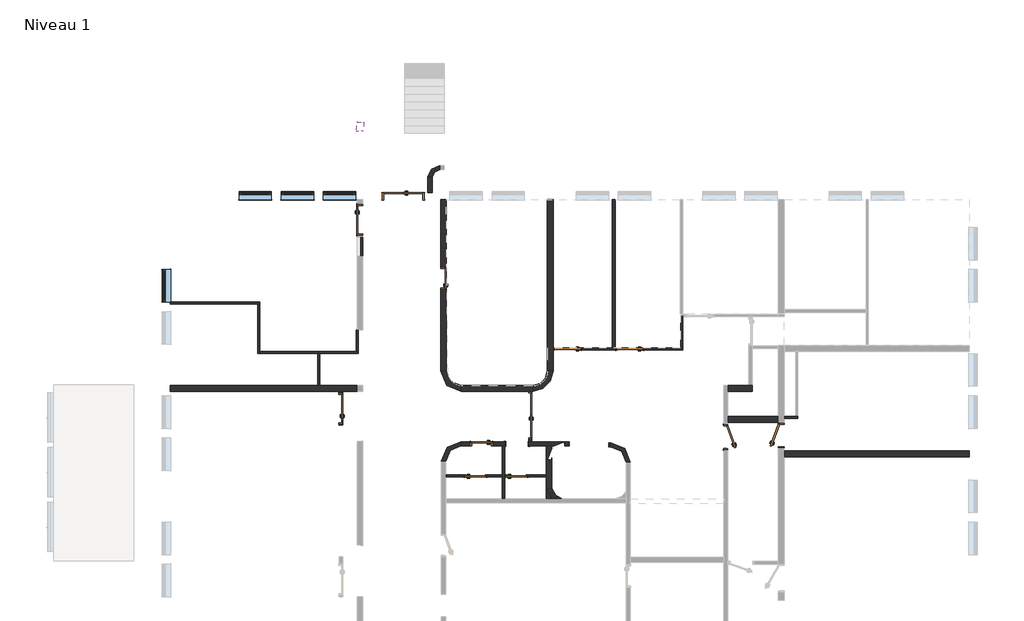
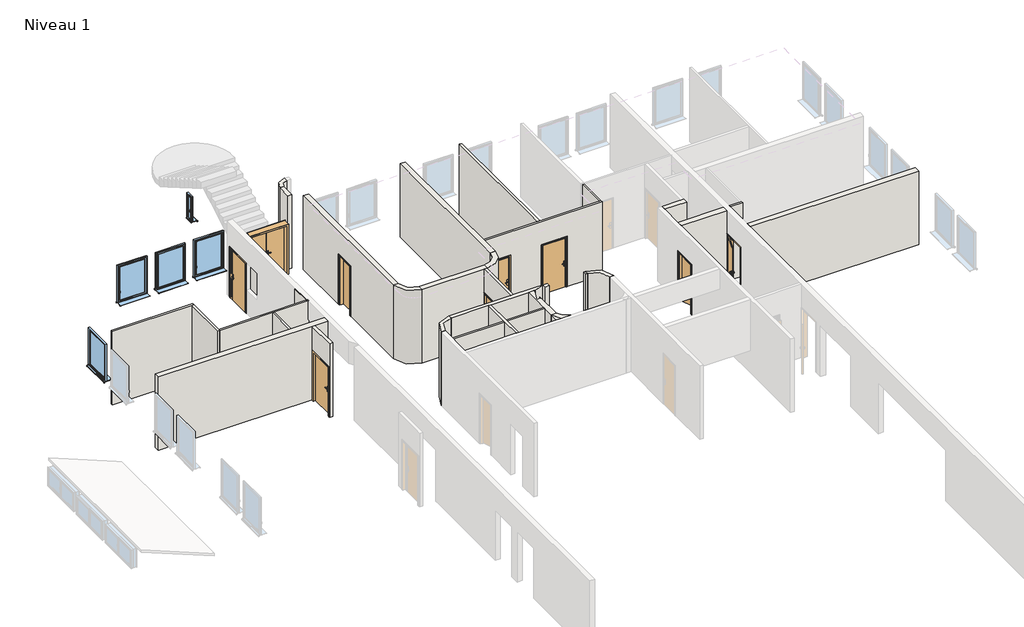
# One storey, part 4 of 5: 31 walls, 13 doors, 5 windows.
"""IFC4 building model written with IfcOpenShell, lengths in millimetres."""

from ifc_helpers import new_model, si_unit, point, frame, frame_2d, origin, place, context, project, spatial, polyline, circle_curve, trimmed, segment, composite_curve, outline, extrude, faceted_brep, transform, mapped, element, save
from ifc_brep_helpers import plane_surface, cylinder_surface, revolved_surface, advanced_brep
from components import door_1f832047, door_0234ae46, door_83361101, door_b2d4c190, door_4948b6b3, door_cb0b5031, door_1_10m_x_2_04m_0d4a83de, door_1_10m_x_2_04m_3b420d45, double_r_1_43m_x_2_04m_af7c178c, double_r_1_63m_x_2_04m_5d470661, ouverture_en_rectangle_ouverture_85x210_0c7ad7c7, window_115_x_155_cm_24c5beae, window_32_x_105_cm_1e8ab629

model = new_model("IFC4")

# Units and contexts
model_context = context("Model", 3, world=origin())
ifc_project = project(units=[si_unit("LENGTHUNIT", "METRE", prefix="MILLI")], contexts=[model_context])

# Site, building, storey
site = spatial("IfcSite", under=ifc_project)
building = spatial("IfcBuilding", under=site)
storey = spatial("IfcBuildingStorey", under=building, Name="Niveau 1", Elevation=4121.8727639)

# Doors
placement = place(None, origin())
door_shape = door_1f832047(model_context)
element("IfcDoor", 1, ObjectType="@_Int. Simple : @_PP (0.73m x 2.04m)", at=placement, inside=storey, context=model_context, shape_type="MappedRepresentation", body=[
    mapped(door_shape, transform((-14549.4094499, 1875.9456807, 4121.8727639), x_axis=(-1.0, 0.0, 0.0), y_axis=(0.0, -1.0, 0.0), z_axis=(0.0, 0.0, 1.0))),
])
door_2_shape = door_0234ae46(model_context)
element("IfcDoor", 2, ObjectType="@_Int. Simple : @_PP (0.73m x 2.04m)", at=placement, inside=storey, context=model_context, shape_type="MappedRepresentation", body=[
    mapped(door_2_shape, transform((-14695.2391723, 729.9422931, 4121.8727639), x_axis=(1.0, 0.0, 0.0), y_axis=(0.0, 1.0, 0.0), z_axis=(0.0, 0.0, 1.0))),
])
element("IfcDoor", 3, ObjectType="@_Int. Simple : @_PP (0.73m x 2.04m)", at=placement, inside=storey, context=model_context, shape_type="MappedRepresentation", body=[
    mapped(door_2_shape, transform((-13233.5464956, 729.9422931, 4121.8727639), x_axis=(1.0, 0.0, 0.0), y_axis=(0.0, 1.0, 0.0), z_axis=(0.0, 0.0, 1.0))),
])
door_3_shape = door_83361101(model_context)
element("IfcDoor", 4, ObjectType="@_Int. Simple : @_PP (0.73m x 2.04m)", at=placement, inside=storey, context=model_context, shape_type="MappedRepresentation", body=[
    mapped(door_3_shape, transform((-15865.2391709, 7805.8848594, 4121.8727639), x_axis=(1.4990706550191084e-10, 1.0, 0.0), y_axis=(-1.0, 1.4990706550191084e-10, 0.0), z_axis=(0.0, 0.0, 1.0))),
])
door_4_shape = door_b2d4c190(model_context)
element("IfcDoor", 5, ObjectType="@_Int. Simple : @_PP (0.93m x 2.04m)", at=placement, inside=storey, context=model_context, shape_type="MappedRepresentation", body=[
    mapped(door_4_shape, transform((-11486.8538189, 5248.177026, 4121.8727639), x_axis=(-1.0, 0.0, 0.0), y_axis=(0.0, -1.0, 0.0), z_axis=(0.0, 0.0, 1.0))),
])
element("IfcDoor", 6, ObjectType="@_Int. Simple : @_PP (0.93m x 2.04m)", at=placement, inside=storey, context=model_context, shape_type="MappedRepresentation", body=[
    mapped(door_4_shape, transform((-9268.9891726, 5248.177026, 4121.8727639), x_axis=(-1.0, 0.0, 0.0), y_axis=(0.0, -1.0, 0.0), z_axis=(0.0, 0.0, 1.0))),
])
door_5_shape = door_4948b6b3(model_context)
element("IfcDoor", 7, ObjectType="@_Int. Simple : @_PP (0.83m x 2.04m)", at=placement, inside=storey, context=model_context, shape_type="MappedRepresentation", body=[
    mapped(door_5_shape, transform((-3843.989174, 2209.6432161, 4121.8727639), x_axis=(0.0, 1.0, 0.0), y_axis=(-1.0, 0.0, 0.0), z_axis=(0.0, 0.0, 1.0))),
])
door_6_shape = door_cb0b5031(model_context)
element("IfcDoor", 8, ObjectType="@_Int. Simple : @_PP (0.83m x 2.04m)", at=placement, inside=storey, context=model_context, shape_type="MappedRepresentation", body=[
    mapped(door_6_shape, transform((-5822.6697023, 2149.6432161, 4121.8727639), x_axis=(0.0, 1.0, 0.0), y_axis=(-1.0, 0.0, 0.0), z_axis=(0.0, 0.0, 1.0))),
])
door_1_10m_x_2_04m_shape = door_1_10m_x_2_04m_0d4a83de(model_context)
element("IfcDoor", 9, ObjectType="Tierce  160 : 1.10m x 2.04m", at=placement, inside=storey, context=model_context, shape_type="MappedRepresentation", body=[
    mapped(door_1_10m_x_2_04m_shape, transform((-19518.1879319, 3132.2061206, 4121.8727639), x_axis=(-3.8772042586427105e-11, -1.0, 0.0), y_axis=(1.0, -3.8772042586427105e-11, 0.0), z_axis=(0.0, 0.0, 1.0))),
])
door_1_10m_x_2_04m_2_shape = door_1_10m_x_2_04m_3b420d45(model_context)
element("IfcDoor", 10, ObjectType="Tierce  160 : 1.10m x 2.04m", at=placement, inside=storey, context=model_context, shape_type="MappedRepresentation", body=[
    mapped(door_1_10m_x_2_04m_2_shape, transform((-18843.9891692, 9855.8848592, 4121.8727639), x_axis=(7.361836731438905e-11, 1.0, 0.0), y_axis=(-1.0, 7.361836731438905e-11, 0.0), z_axis=(0.0, 0.0, 1.0))),
])
double_r_1_43m_x_2_04m_shape = double_r_1_43m_x_2_04m_af7c178c(model_context)
element("IfcDoor", 11, ObjectType="Double (R) : 1.43m x 2.04m", at=placement, inside=storey, context=model_context, shape_type="MappedRepresentation", body=[
    mapped(double_r_1_43m_x_2_04m_shape, transform((-17299.4462097, 10695.8848592, 4121.8727639), x_axis=(1.0, 0.0, 0.0), y_axis=(0.0, 1.0, 0.0), z_axis=(0.0, 0.0, 1.0))),
])
double_r_1_63m_x_2_04m_shape = double_r_1_63m_x_2_04m_5d470661(model_context)
element("IfcDoor", 12, ObjectType="Double (R) : 1.63m x 2.04m", at=placement, inside=storey, context=model_context, shape_type="MappedRepresentation", body=[
    mapped(double_r_1_63m_x_2_04m_shape, transform((-12774.461565, 2887.2122401, 4121.8727639), x_axis=(0.0, -1.0, 0.0), y_axis=(1.0, 0.0, 0.0), z_axis=(0.0, 0.0, 1.0))),
])
ouverture_en_rectangle_ouverture_85x210_shape = ouverture_en_rectangle_ouverture_85x210_0c7ad7c7(model_context)
element("IfcDoor", 13, ObjectType="Ouverture en rectangle : Ouverture 85x210", at=placement, inside=storey, context=model_context, shape_type="MappedRepresentation", body=[
    mapped(ouverture_en_rectangle_ouverture_85x210_shape, transform((-13253.5797272, 1875.9456807, 4121.8727639), x_axis=(1.0, 0.0, 0.0), y_axis=(0.0, 1.0, 0.0), z_axis=(0.0, 0.0, 1.0))),
])

# Walls
element("IfcWall", 14, ObjectType="@_Générique - Int. 200 mm", at=placement, inside=storey, context=model_context, shape_type="Brep", body=[
    faceted_brep([(-15240.2391716, 3750.8848625, 4121.8727639), (-12824.461565, 3750.8848626, 4121.8727639), (-12724.461565, 3750.8848626, 4121.8727639), (-12691.8538184, 3750.8848626, 4121.8727639), (-12691.8538184, 3750.8848626, 7167.3082742), (-12724.461565, 3750.8848626, 7167.3082742), (-12824.461565, 3750.8848626, 7167.3082742), (-15240.2391716, 3750.8848625, 7167.3082742), (-15240.2391716, 3950.8848625, 4121.8727639), (-15240.2391716, 3950.8848625, 7167.3082742), (-12691.8538184, 3950.8848626, 7167.3082742), (-12691.8538184, 3950.8848626, 4121.8727639)], [[[0, 1, 2, 3, 4, 5, 6, 7]], [[8, 9, 10, 11]], [[3, 2, 1, 0, 8, 11]], [[4, 3, 11, 10]], [[0, 7, 9, 8]], [[7, 6, 5, 4, 10, 9]]]),
])
element("IfcWall", 15, ObjectType="@_Générique - Int. 200 mm", at=placement, inside=storey, context=model_context, shape_type="SweptSolid", body=[
    extrude(outline(polyline([(-11966.8538189, 10570.8848592), (-11966.8538189, 4475.8848626), (-12166.8538189, 4475.8848626), (-12166.8538189, 10570.8848592), (-11966.8538189, 10570.8848592)])), frame((0.0, 0.0, 4121.8727639), z_axis=(0.0, 0.0, 1.0), x_axis=(1.0, 0.0, 0.0)), (0.0, 0.0, 1.0), 3045.4355104),
])
element("IfcWall", 16, ObjectType="@_Générique - Int. 200 mm", at=placement, inside=storey, context=model_context, shape_type="Brep", body=[
    faceted_brep([(-15965.2391714, 4475.8645517, 4121.8727639), (-15965.2391714, 4475.8645517, 7167.3082742), (-15965.2391705, 10570.8848592, 7167.3082742), (-15965.2391705, 10570.8848592, 4121.8727639), (-15965.2391709, 8170.8848594, 4121.8727639), (-15965.2391709, 8170.8848594, 6196.8727639), (-15965.239171, 7370.8848594, 6196.8727639), (-15965.239171, 7370.8848594, 4121.8727639), (-15765.2391714, 4475.8645517, 7167.3082742), (-15765.2391714, 4475.8645517, 4121.8727639), (-15765.239171, 7370.8848594, 4121.8727639), (-15765.239171, 7370.8848594, 6196.8727639), (-15765.2391709, 8170.8848594, 6196.8727639), (-15765.2391709, 8170.8848594, 4121.8727639), (-15765.2391705, 10570.8848592, 4121.8727639), (-15765.2391705, 10570.8848592, 7167.3082742), (-15835.8209314, 4475.8645517, 7167.3082742), (-15835.8209314, 10570.8848592, 7167.3082742)], [[[0, 1, 2, 3, 4, 5, 6, 7]], [[8, 9, 10, 11, 12, 13, 14, 15]], [[9, 0, 7, 10]], [[3, 14, 13, 4]], [[1, 0, 9, 8, 16]], [[3, 2, 17, 15, 14]], [[2, 1, 16, 8, 15, 17]], [[12, 5, 4, 13]], [[5, 12, 11, 6]], [[6, 11, 10, 7]]]),
])
element("IfcWall", 17, ObjectType="@_Générique - Int. 200 mm", at=placement, inside=storey, context=model_context, shape_type="SweptSolid", body=[
    extrude(outline(composite_curve([segment(polyline([(-12166.8538184, 4475.8848627), (-11966.8538184, 4475.8848627)]), True, "CONTINUOUS"), segment(trimmed(circle_curve(frame_2d((-12691.8538184, 4475.8848626)), 725.0), [point((-11966.8538184, 4475.8848627))], [point((-12691.8538184, 3750.8848626))], False, "CARTESIAN"), True, "CONTINUOUS"), segment(polyline([(-12691.8538184, 3750.8848626), (-12691.8538184, 3950.8848626)]), True, "CONTINUOUS"), segment(trimmed(circle_curve(frame_2d((-12691.8538184, 4475.8848626)), 525.0), [point((-12691.8538184, 3950.8848626))], [point((-12166.8538184, 4475.8848627))], True, "CARTESIAN"), True, "CONTINUOUS")], self_intersect=False)), frame((0.0, 0.0, 4121.8727639), z_axis=(0.0, 0.0, 1.0), x_axis=(1.0, 0.0, 0.0)), (0.0, 0.0, 1.0), 3045.4355104),
])
element("IfcWall", 18, ObjectType="@_Générique - Int. 200 mm", at=placement, inside=storey, context=model_context, shape_type="SweptSolid", body=[
    extrude(outline(composite_curve([segment(polyline([(-15240.2391716, 3950.8848625), (-15240.2391716, 3750.8848625)]), True, "CONTINUOUS"), segment(trimmed(circle_curve(frame_2d((-15240.2391717, 4475.8848626)), 725.0000001), [point((-15240.2391716, 3750.8848625))], [point((-15965.2391718, 4475.8848625))], False, "CARTESIAN"), True, "CONTINUOUS"), segment(polyline([(-15965.2391718, 4475.8848625), (-15765.2391718, 4475.8848625)]), True, "CONTINUOUS"), segment(trimmed(circle_curve(frame_2d((-15240.2391717, 4475.8848626)), 525.0000001), [point((-15765.2391718, 4475.8848625))], [point((-15240.2391716, 3950.8848625))], True, "CARTESIAN"), True, "CONTINUOUS")], self_intersect=False)), frame((0.0, 0.0, 4121.8727639), z_axis=(0.0, 0.0, 1.0), x_axis=(1.0, 0.0, 0.0)), (0.0, 0.0, 1.0), 3045.4355104),
])
element("IfcWall", 19, ObjectType="@_Générique - Int. 200 mm", at=placement, inside=storey, context=model_context, shape_type="AdvancedBrep", body=[
    advanced_brep(
    [(-12206.8538189, -84.1151398, 4121.8727639), (-12206.8538189, -84.1151398, 7167.3082742), (-12206.8538189, 257.3668633, 7167.3082742), (-12206.8538189, 1800.9456807, 7167.3082742), (-12206.8538189, 1800.9456807, 4121.8727639), (-12206.8538189, 257.3668633, 4121.8727639), (-12006.8538189, 282.2156051, 7167.3082742), (-12006.8538189, 282.2156051, 4121.8727639), (-12006.8538189, 1380.0876854, 4121.8727639), (-12006.8538189, 1380.0876854, 7167.3082742), (-12006.8538189, 1800.9456807, 4121.8727639), (-12006.8538189, 1800.9456807, 7167.3082742), (-12006.8538189, 1713.8116693, 7167.3082742), (-12006.8538189, 1713.8116693, 4121.8727639), (-12019.2196923, -84.1151399, 4121.8727639), (-12166.8035865, 1302.8378704, 4121.8727639), (-12016.9291675, 1296.7012154, 4121.8727639), (-12019.2196923, -84.1151399, 7167.3082742), (-12016.9291675, 1296.7012154, 7167.3082742), (-12166.8035865, 1302.8378704, 7167.3082742)],
    [
        (0, 1),
        (1, 2),
        (2, 3),
        (3, 4),
        (4, 5),
        (5, 0),
        (6, 7),
        (7, 8),
        (8, 9),
        (9, 6),
        (10, 11),
        (11, 12),
        (12, 13),
        (13, 10),
        (14, 0),
        (5, 14, circle_curve(frame((-11505.2506143, 420.586131, 4121.8727639), z_axis=(0.0, 0.0, 1.0), x_axis=(-0.9999845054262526, 0.005566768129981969, 0.0)), 720.3385218)),
        (7, 5),
        (4, 10),
        (13, 15, circle_curve(frame((-11487.3728871, 1275.0183678, 4121.8727639), z_axis=(0.0, 0.0, 1.0), x_axis=(-0.9999845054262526, -0.005566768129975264, 0.0)), 680.0)),
        (15, 16),
        (16, 8, circle_curve(frame((-11487.3728871, 1275.0183678, 4121.8727639), z_axis=(0.0, 0.0, -1.0), x_axis=(-0.9999845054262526, -0.005566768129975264, 0.0)), 530.0)),
        (14, 17),
        (17, 1),
        (17, 2, circle_curve(frame((-11505.2506143, 420.586131, 7167.3082742), z_axis=(0.0, 0.0, -1.0), x_axis=(-0.9999845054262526, 0.005566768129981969, 0.0)), 720.3385218)),
        (2, 6),
        (9, 18, circle_curve(frame((-11487.3728871, 1275.0183678, 7167.3082742), z_axis=(0.0, 0.0, 1.0), x_axis=(-0.9999845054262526, -0.005566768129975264, 0.0)), 530.0)),
        (18, 19),
        (19, 12, circle_curve(frame((-11487.3728871, 1275.0183678, 7167.3082742), z_axis=(0.0, 0.0, -1.0), x_axis=(-0.9999845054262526, -0.005566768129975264, 0.0)), 680.0)),
        (11, 3),
        (5, 2),
        (19, 15),
        (18, 16),
    ],
    [
        plane_surface(frame((-12206.8538189, 1455.8848602, 4121.8727639), z_axis=(-1.0, 0.0, 0.0), x_axis=(0.0, -1.0, 0.0))),
        plane_surface(frame((-12006.8538189, 1455.8848602, 4121.8727639), z_axis=(1.0, 0.0, 0.0), x_axis=(0.0, 1.0, 0.0))),
        plane_surface(frame((-12206.8538189, 1875.9456807, 4121.8727639), z_axis=(0.0, 0.0, -1.0), x_axis=(1.0, 0.0, 0.0))),
        plane_surface(frame((-9831.385531, -84.1151401, 4121.8727639), z_axis=(-1.1123460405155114e-10, -1.0, 0.0), x_axis=(-1.0, 1.1123460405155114e-10, 0.0))),
        plane_surface(frame((-25618.9891748, 10570.8848592, 7167.3082742), z_axis=(0.0, 0.0, 1.0), x_axis=(0.0, 1.0, 0.0))),
        revolved_surface(polyline([(-12225.57797476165, 424.5960885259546, 7167.3082742), (-12225.57797476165, 424.5960885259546, 4121.8727639)]), (-11505.2506143, 420.586131, 4121.8727639), (0.0, 0.0, 1.0)),
        plane_surface(frame((-12006.8538189, 282.2156051, 4121.8727639), z_axis=(0.12329572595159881, -0.9923699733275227, 0.0), x_axis=(-0.9923699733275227, -0.12329572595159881, 0.0))),
        plane_surface(frame((-12035.9365049, 1800.9456807, 4121.8727639), z_axis=(0.0, 1.0, 0.0), x_axis=(1.0, 0.0, 0.0))),
        revolved_surface(polyline([(-12167.362350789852, 1271.2329654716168, 7167.3082742), (-12167.362350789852, 1271.2329654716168, 4121.8727639)]), (-11487.3728871, 1275.0183678, 4121.8727639), (0.0, 0.0, 1.0)),
        plane_surface(frame((-12166.8035865, 1302.8378704, 7167.3082742), z_axis=(0.040911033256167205, 0.9991627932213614, 0.0), x_axis=(0.0, 0.0, -1.0))),
        cylinder_surface(frame((-11487.3728871, 1275.0183678, 4121.8727639), z_axis=(0.0, 0.0, -1.0), x_axis=(-0.9999845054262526, -0.005566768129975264, 0.0)), 530.0),
    ],
    [
        (0, [[1, 2, 3, 4, 5, 6]]),
        (1, [[7, 8, 9, 10]]),
        (1, [[11, 12, 13, 14]]),
        (2, [[15, -6, 16]]),
        (2, [[17, -5, 18, -14, 19, 20, 21, -8]]),
        (3, [[-1, -15, 22, 23]]),
        (4, [[-23, 24, -2]]),
        (4, [[25, -10, 26, 27, 28, -12, 29, -3]]),
        (5, [[30, -24, -22, -16]]),
        (6, [[-30, -17, -7, -25]]),
        (7, [[-4, -29, -11, -18]]),
        (8, [[31, -19, -13, -28]]),
        (9, [[-31, -27, 32, -20]]),
        (10, [[-32, -26, -9, -21]]),
    ],
),
])
element("IfcWall", 20, ObjectType="@_Générique - Int. 200 mm", at=placement, inside=storey, context=model_context, shape_type="Brep", body=[
    faceted_brep([(-4882.6180434, 3950.8848626, 4121.8727639), (-5002.6180434, 3950.8848626, 4121.8727639), (-5747.6697023, 3950.8848626, 4121.8727639), (-5747.6697023, 3950.8848626, 7167.3082742), (-5002.6180434, 3950.8848626, 7167.3082742), (-4882.6180434, 3950.8848626, 7167.3082742), (-4882.6180434, 3750.8848626, 4121.8727639), (-4882.6180434, 3750.8848626, 7167.3082742), (-5747.6697023, 3750.8848626, 7167.3082742), (-5747.6697023, 3750.8848626, 4121.8727639)], [[[0, 1, 2, 3, 4, 5]], [[6, 7, 8, 9]], [[2, 1, 0, 6, 9]], [[5, 4, 3, 8, 7]], [[0, 5, 7, 6]], [[3, 2, 9, 8]]]),
])
element("IfcWall", 21, ObjectType="@_Générique - Int. 100 mm", at=placement, inside=storey, context=model_context, shape_type="Brep", body=[
    faceted_brep([(-13778.5797272, 1800.9456807, 4121.8727639), (-13778.5797272, 764.9422931, 4121.8727639), (-13778.5797272, 694.9422931, 4121.8727639), (-13778.5797272, -84.1151397, 4121.8727639), (-13778.5797272, -84.1151397, 7167.3082742), (-13778.5797272, 694.9422931, 7167.3082742), (-13778.5797272, 764.9422931, 7167.3082742), (-13778.5797272, 1800.9456807, 7167.3082742), (-13678.5797272, 1800.9456807, 4121.8727639), (-13678.5797272, 1800.9456807, 6221.8727639), (-13678.5797272, 1800.9456807, 7167.3082742), (-13678.5797272, 764.9422931, 7167.3082742), (-13678.5797272, 694.9422931, 7167.3082742), (-13678.5797272, -84.1151397, 7167.3082742), (-13678.5797272, -84.1151397, 4121.8727639), (-13678.5797272, 694.9422931, 4121.8727639), (-13678.5797272, 764.9422931, 4121.8727639)], [[[0, 1, 2, 3, 4, 5, 6, 7]], [[8, 9, 10, 11, 12, 13, 14, 15, 16]], [[3, 2, 1, 0, 8, 16, 15, 14]], [[7, 6, 5, 4, 13, 12, 11, 10]], [[4, 3, 14, 13]], [[0, 7, 10, 9, 8]]]),
])
element("IfcWall", 22, ObjectType="@_Générique - Int. 70 mm", at=placement, inside=storey, context=model_context, shape_type="SweptSolid", body=[
    extrude(outline(polyline([(7167.3082742, -15793.9891666), (4121.8727639, -15793.9891666), (4121.8727639, -15130.2391723), (6196.8727639, -15130.2391723), (6196.8727639, -14330.2391723), (4121.8727639, -14330.2391723), (4121.8727639, -13778.5797272), (7167.3082742, -13778.5797272), (7167.3082742, -15793.9891666)])), frame((0.0, 694.9422931, 0.0), z_axis=(0.0, 1.0, 0.0), x_axis=(0.0, 0.0, 1.0)), (0.0, 0.0, 1.0), 70.0),
    extrude(outline(polyline([(4121.8727639, -12206.8538189), (7167.3082742, -12206.8538189), (7167.3082742, -13678.5797272), (4121.8727639, -13678.5797272), (4121.8727639, -13668.5464956), (6196.8727639, -13668.5464956), (6196.8727639, -12868.5464956), (4121.8727639, -12868.5464956), (4121.8727639, -12206.8538189)])), frame((0.0, 694.9422931, 0.0), z_axis=(0.0, 1.0, 0.0), x_axis=(0.0, 0.0, 1.0)), (0.0, 0.0, 1.0), 70.0),
])
element("IfcWall", 23, ObjectType="@_Générique - Int. 100 mm", at=placement, inside=storey, context=model_context, shape_type="SweptSolid", body=[
    extrude(outline(polyline([(-9853.9891726, 5283.177026), (-9853.9891726, 10570.8848592), (-9753.9891726, 10570.8848592), (-9753.9891726, 5283.177026), (-9853.9891726, 5283.177026)])), frame((0.0, 0.0, 4121.8727639), z_axis=(0.0, 0.0, 1.0), x_axis=(1.0, 0.0, 0.0)), (0.0, 0.0, 1.0), 3045.4355104),
])
element("IfcWall", 24, ObjectType="@_Générique - Int. 70 mm", at=placement, inside=storey, context=model_context, shape_type="Brep", body=[
    faceted_brep([(-3257.6180434, 2849.6432161, 4121.8727639), (-3327.6180434, 2849.6432161, 4121.8727639), (-3743.989174, 2849.6432161, 4121.8727639), (-3743.989174, 2849.6432161, 7167.3082742), (-3327.6180434, 2849.6432161, 7167.3082742), (-3257.6180434, 2849.6432161, 7167.3082742), (-3257.6180434, 2779.6432161, 4121.8727639), (-3257.6180434, 2779.6432161, 7167.3082742), (-3743.989174, 2779.6432161, 7167.3082742), (-3743.989174, 2779.6432161, 4121.8727639)], [[[0, 1, 2, 3, 4, 5]], [[6, 7, 8, 9]], [[2, 1, 0, 6, 9]], [[5, 4, 3, 8, 7]], [[3, 2, 9, 8]], [[0, 5, 7, 6]]]),
])
element("IfcWall", 25, ObjectType="@_Générique - Int. 120 mm", at=placement, inside=storey, context=model_context, shape_type="AdvancedBrep", body=[
    advanced_brep(
    [(-19458.1879319, 3740.8848613, 7167.3082742), (-19458.187932, 2545.5285678, 7167.3082742), (-19458.187932, 2545.5285678, 4121.8727639), (-19458.1879319, 2572.2061206, 4121.8727639), (-19458.1879319, 2572.2061206, 6196.8727639), (-19458.1879319, 3692.2061206, 6196.8727639), (-19458.1879319, 3692.2061206, 4121.8727639), (-19458.1879319, 3740.8848613, 4121.8727639), (-19578.187932, 2537.2164827, 7167.3082742), (-19578.1879319, 3740.8848613, 7167.3082742), (-19578.1879319, 3740.8848613, 4121.8727639), (-19578.1879319, 3692.2061206, 4121.8727639), (-19578.1879319, 3692.2061206, 6196.8727639), (-19578.1879319, 2572.2061206, 6196.8727639), (-19578.1879319, 2572.2061206, 4121.8727639), (-19578.187932, 2537.2164827, 4121.8727639)],
    [
        (0, 1),
        (1, 2),
        (2, 3),
        (3, 4),
        (4, 5),
        (5, 6),
        (6, 7),
        (7, 0),
        (8, 9),
        (9, 10),
        (10, 11),
        (11, 12),
        (12, 13),
        (13, 14),
        (14, 15),
        (15, 8),
        (2, 15, circle_curve(frame((-19466.7134088, 1798.244569, 4121.8727639), z_axis=(0.0, 0.0, 1.0), x_axis=(0.0, -1.0, 0.0)), 747.3326292)),
        (14, 3),
        (10, 7),
        (6, 11),
        (0, 9),
        (8, 1, circle_curve(frame((-19466.7134088, 1798.244569, 7167.3082742), z_axis=(0.0, 0.0, -1.0), x_axis=(0.0, -1.0, 0.0)), 747.3326292)),
        (4, 13),
        (12, 5),
    ],
    [
        plane_surface(frame((-19458.1879319, 3367.0338422, 4121.8727639), z_axis=(1.0, -3.8772042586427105e-11, 0.0), x_axis=(3.8772042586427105e-11, 1.0, 0.0))),
        plane_surface(frame((-19578.1879319, 3367.0338423, 4121.8727639), z_axis=(-1.0, 3.8772042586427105e-11, 0.0), x_axis=(-3.8772042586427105e-11, -1.0, 0.0))),
        plane_surface(frame((-19458.187932, 2443.52738, 4121.8727639), z_axis=(0.0, 0.0, -1.0), x_axis=(-1.0, 3.8771155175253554e-11, 0.0))),
        plane_surface(frame((-25618.9891748, 10570.8848592, 7167.3082742), z_axis=(0.0, 0.0, 1.0), x_axis=(0.0, 1.0, 0.0))),
        plane_surface(frame((-19158.9891725, 3740.8848613, 4121.8727639), z_axis=(3.876859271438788e-11, 1.0, 0.0), x_axis=(1.0, -3.876859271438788e-11, 0.0))),
        revolved_surface(polyline([(-19466.7134088, 1050.9119397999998, 7167.3082742), (-19466.7134088, 1050.9119397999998, 4121.8727639)]), (-19466.7134088, 1798.244569, 4121.8727639), (0.0, 0.0, 1.0)),
        plane_surface(frame((-20982.1879319, 2572.2061207, 6196.8727639), z_axis=(0.0, 0.0, -1.0), x_axis=(1.0, -3.877200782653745e-11, 0.0))),
        plane_surface(frame((-20982.1879319, 3692.2061207, 6196.8727639), z_axis=(-3.877200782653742e-11, -1.0, 0.0), x_axis=(1.0, -3.877200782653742e-11, 0.0))),
        plane_surface(frame((-20982.1879319, 2572.2061207, 4121.8727639), z_axis=(3.877200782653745e-11, 1.0, 0.0), x_axis=(1.0, -3.877200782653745e-11, 0.0))),
    ],
    [
        (0, [[1, 2, 3, 4, 5, 6, 7, 8]]),
        (1, [[9, 10, 11, 12, 13, 14, 15, 16]]),
        (2, [[17, -15, 18, -3]]),
        (2, [[19, -7, 20, -11]]),
        (3, [[-1, 21, -9, 22]]),
        (4, [[-8, -19, -10, -21]]),
        (5, [[-17, -2, -22, -16]]),
        (6, [[23, -13, 24, -5]]),
        (7, [[-24, -12, -20, -6]]),
        (8, [[-23, -4, -18, -14]]),
    ],
),
])
element("IfcWall", 26, ObjectType="@_Générique - Int. 100 mm", at=placement, inside=storey, context=model_context, shape_type="SweptSolid", body=[
    extrude(outline(polyline([(1950.9456807, 7167.3082742), (3750.8848626, 7167.3082742), (3750.8848626, 4121.8727639), (3737.2122401, 4121.8727639), (3737.2122401, 6196.8727639), (2037.2122401, 6196.8727639), (2037.2122401, 4121.8727639), (1950.9456807, 4121.8727639), (1950.9456807, 7167.3082742)])), frame((-12824.461565, 0.0, 0.0), z_axis=(1.0, 0.0, 0.0), x_axis=(0.0, 1.0, 0.0)), (0.0, 0.0, 1.0), 100.0),
])
element("IfcWall", 27, ObjectType="@_Générique - Int. 150 mm", at=placement, inside=storey, context=model_context, shape_type="SweptSolid", body=[
    extrude(outline(polyline([(-16424.5970292, 10820.8848592), (-16424.5970292, 11389.1236148), (-16274.5970292, 11381.3483403), (-16274.5970292, 10820.8848592), (-16424.5970292, 10820.8848592)])), frame((0.0, 0.0, 4121.8727639), z_axis=(0.0, 0.0, 1.0), x_axis=(1.0, 0.0, 0.0)), (0.0, 0.0, 1.0), 3045.4355104),
])
element("IfcWall", 28, ObjectType="@_Générique - Int. 150 mm", at=placement, inside=storey, context=model_context, shape_type="SweptSolid", body=[
    extrude(outline(composite_curve([segment(polyline([(-16274.5970292, 11381.3483403), (-16424.5970292, 11389.1236148)]), True, "CONTINUOUS"), segment(trimmed(circle_curve(frame_2d((-15982.7522615, 11347.504237)), 443.8005987), [point((-16424.5970292, 11389.1236148))], [point((-16002.054988, 11790.8848592))], False, "CARTESIAN"), True, "CONTINUOUS"), segment(polyline([(-16002.054988, 11790.8848592), (-15998.4558377, 11640.8848592)]), True, "CONTINUOUS"), segment(trimmed(circle_curve(frame_2d((-15982.7522615, 11347.504237)), 293.8005987), [point((-15998.4558377, 11640.8848592))], [point((-16274.5970292, 11381.3483403))], True, "CARTESIAN"), True, "CONTINUOUS")], self_intersect=False)), frame((0.0, 0.0, 4121.8727639), z_axis=(0.0, 0.0, 1.0), x_axis=(1.0, 0.0, 0.0)), (0.0, 0.0, 1.0), 3045.4355104),
])
element("IfcWall", 29, ObjectType="Ext. Voile BA 150", at=placement, inside=storey, context=model_context, shape_type="AdvancedBrep", body=[
    advanced_brep(
    [(-15243.9891668, 1950.9456807, 4121.8727639), (-15243.9891668, 1950.9456807, 7167.3082742), (-12824.461565, 1950.9456807, 7167.3082742), (-12724.461565, 1950.9456807, 7167.3082742), (-11394.0197746, 1950.9456807, 7167.3082742), (-11394.0197746, 1950.9456807, 4121.8727639), (-12724.461565, 1950.9456807, 4121.8727639), (-12824.461565, 1950.9456807, 4121.8727639), (-12828.5797272, 1950.9456807, 4121.8727639), (-12828.5797272, 1950.9456807, 6221.8727639), (-13678.5797272, 1950.9456807, 6221.8727639), (-13678.5797272, 1950.9456807, 4121.8727639), (-14114.4094499, 1950.9456807, 4121.8727639), (-14114.4094499, 1950.9456807, 6196.8727639), (-14914.4094499, 1950.9456807, 6196.8727639), (-14914.4094499, 1950.9456807, 4121.8727639), (-11394.0197746, 1800.9456807, 4121.8727639), (-11394.0197746, 1800.9456807, 7167.3082742), (-11552.9507915, 1800.9456807, 7167.3082742), (-11552.9507915, 1800.9456807, 4121.8727639), (-15243.9891668, 1800.9456807, 7167.3082742), (-15243.9891668, 1800.9456807, 4121.8727639), (-14914.4094499, 1800.9456807, 4121.8727639), (-14914.4094499, 1800.9456807, 6196.8727639), (-14114.4094499, 1800.9456807, 6196.8727639), (-14114.4094499, 1800.9456807, 4121.8727639), (-13778.5797272, 1800.9456807, 4121.8727639), (-13678.5797272, 1800.9456807, 4121.8727639), (-13678.5797272, 1800.9456807, 6221.8727639), (-12828.5797272, 1800.9456807, 6221.8727639), (-12828.5797272, 1800.9456807, 4121.8727639), (-12206.8538189, 1800.9456807, 4121.8727639), (-12006.8538189, 1800.9456807, 4121.8727639), (-11918.4186637, 1800.9456807, 4121.8727639), (-11918.4186637, 1800.9456807, 7167.3082742), (-12006.8538189, 1800.9456807, 7167.3082742), (-12206.8538189, 1800.9456807, 7167.3082742), (-13678.5797272, 1800.9456807, 7167.3082742), (-13778.5797272, 1800.9456807, 7167.3082742), (-11548.3436018, 1801.4996798, 4121.8727639), (-11565.5994644, 1950.5038248, 4121.8727639), (-11565.5994644, 1950.5038248, 7167.3082742), (-11548.3436018, 1801.4996798, 7167.3082742)],
    [
        (0, 1),
        (1, 2),
        (2, 3),
        (3, 4),
        (4, 5),
        (5, 6),
        (6, 7),
        (7, 8),
        (8, 9),
        (9, 10),
        (10, 11),
        (11, 12),
        (12, 13),
        (13, 14),
        (14, 15),
        (15, 0),
        (16, 17),
        (17, 18),
        (18, 19),
        (19, 16),
        (20, 21),
        (21, 22),
        (22, 23),
        (23, 24),
        (24, 25),
        (25, 26),
        (26, 27),
        (27, 28),
        (28, 29),
        (29, 30),
        (30, 31),
        (31, 32),
        (32, 33),
        (33, 34),
        (34, 35),
        (35, 36),
        (36, 37),
        (37, 38),
        (38, 20),
        (5, 16),
        (19, 39, circle_curve(frame((-11487.3728871, 1275.0183678, 4121.8727639), z_axis=(0.0, 0.0, -1.0), x_axis=(-0.9999845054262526, -0.005566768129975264, 0.0)), 530.0)),
        (39, 40),
        (40, 33, circle_curve(frame((-11487.3728871, 1275.0183678, 4121.8727639), z_axis=(0.0, 0.0, 1.0), x_axis=(-0.9999845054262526, -0.005566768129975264, 0.0)), 680.0)),
        (30, 8),
        (21, 0),
        (15, 22),
        (11, 27),
        (25, 12),
        (20, 1),
        (4, 17),
        (34, 41, circle_curve(frame((-11487.3728871, 1275.0183678, 7167.3082742), z_axis=(0.0, 0.0, -1.0), x_axis=(-0.9999845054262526, -0.005566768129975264, 0.0)), 680.0)),
        (41, 42),
        (42, 18, circle_curve(frame((-11487.3728871, 1275.0183678, 7167.3082742), z_axis=(0.0, 0.0, 1.0), x_axis=(-0.9999845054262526, -0.005566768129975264, 0.0)), 530.0)),
        (40, 41),
        (39, 42),
        (29, 9),
        (10, 28),
        (14, 23),
        (13, 24),
    ],
    [
        plane_surface(frame((-12035.9365049, 1950.9456807, 4121.8727639), z_axis=(0.0, 1.0, 0.0), x_axis=(-1.0, 0.0, 0.0))),
        plane_surface(frame((-12035.9365049, 1800.9456807, 4121.8727639), z_axis=(0.0, -1.0, 0.0), x_axis=(1.0, 0.0, 0.0))),
        plane_surface(frame((-11394.0197746, 1950.9456807, 4121.8727639), z_axis=(0.0, 0.0, -1.0), x_axis=(0.0, -1.0, 0.0))),
        plane_surface(frame((-15243.9891668, 1950.9456807, 4121.8727639), z_axis=(-1.0, 0.0, 0.0), x_axis=(0.0, -1.0, 0.0))),
        plane_surface(frame((-11394.0197746, 1950.9456807, 7167.3082742), z_axis=(1.0, 0.0, 0.0), x_axis=(0.0, -1.0, 0.0))),
        plane_surface(frame((-25618.9891748, 10570.8848592, 7167.3082742), z_axis=(0.0, 0.0, 1.0), x_axis=(0.0, 1.0, 0.0))),
        revolved_surface(polyline([(-12167.362350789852, 1271.2329654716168, 7167.3082742), (-12167.362350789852, 1271.2329654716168, 4121.8727639)]), (-11487.3728871, 1275.0183678, 4121.8727639), (0.0, 0.0, 1.0)),
        plane_surface(frame((-11548.3436018, 1801.4996798, 7167.3082742), z_axis=(-0.9933609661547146, -0.11503908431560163, 0.0), x_axis=(0.0, 0.0, -1.0))),
        plane_surface(frame((-12828.5797272, 276.9456807, 4121.8727639), z_axis=(-1.0, 0.0, 0.0), x_axis=(0.0, 1.0, 0.0))),
        plane_surface(frame((-13678.5797272, 276.9456807, 6221.8727639), z_axis=(1.0, 0.0, 0.0), x_axis=(0.0, 1.0, 0.0))),
        plane_surface(frame((-14914.4094499, 3474.9456807, 4121.8727639), z_axis=(1.0, 0.0, 0.0), x_axis=(0.0, -1.0, 0.0))),
        plane_surface(frame((-14914.4094499, 3474.9456807, 6196.8727639), z_axis=(0.0, 0.0, -1.0), x_axis=(0.0, -1.0, 0.0))),
        plane_surface(frame((-14114.4094499, 3474.9456807, 6196.8727639), z_axis=(-1.0, 0.0, 0.0), x_axis=(0.0, -1.0, 0.0))),
        plane_surface(frame((-12828.5797272, 276.9456807, 6221.8727639), z_axis=(0.0, 0.0, -1.0), x_axis=(0.0, 1.0, 0.0))),
        cylinder_surface(frame((-11487.3728871, 1275.0183678, 4121.8727639), z_axis=(0.0, 0.0, -1.0), x_axis=(-0.9999845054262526, -0.005566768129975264, 0.0)), 530.0),
    ],
    [
        (0, [[1, 2, 3, 4, 5, 6, 7, 8, 9, 10, 11, 12, 13, 14, 15, 16]]),
        (1, [[17, 18, 19, 20]]),
        (1, [[21, 22, 23, 24, 25, 26, 27, 28, 29, 30, 31, 32, 33, 34, 35, 36, 37, 38, 39]]),
        (2, [[40, -20, 41, 42, 43, -33, -32, -31, 44, -8, -7, -6]]),
        (2, [[45, -16, 46, -22]]),
        (2, [[47, -27, -26, 48, -12]]),
        (3, [[-1, -45, -21, 49]]),
        (4, [[-5, 50, -17, -40]]),
        (5, [[-4, -3, -2, -49, -39, -38, -37, -36, -35, 51, 52, 53, -18, -50]]),
        (6, [[54, -51, -34, -43]]),
        (7, [[-54, -42, 55, -52]]),
        (8, [[-9, -44, -30, 56]]),
        (9, [[-11, 57, -28, -47]]),
        (10, [[58, -23, -46, -15]]),
        (11, [[-58, -14, 59, -24]]),
        (12, [[-59, -13, -48, -25]]),
        (13, [[-57, -10, -56, -29]]),
        (14, [[-55, -41, -19, -53]]),
    ],
),
])
element("IfcWall", 30, ObjectType="Ext. Voile BA 150", at=placement, inside=storey, context=model_context, shape_type="SweptSolid", body=[
    extrude(outline(composite_curve([segment(polyline([(-9913.9891719, 1762.212245), (-9913.9891719, 1912.212245)]), True, "CONTINUOUS"), segment(trimmed(circle_curve(frame_2d((-9913.9891719, 1212.2122451)), 699.9999999), [point((-9913.9891719, 1912.212245))], [point((-9213.989172, 1212.2122451))], False, "CARTESIAN"), True, "CONTINUOUS"), segment(polyline([(-9213.989172, 1212.2122451), (-9363.989172, 1212.2122451)]), True, "CONTINUOUS"), segment(trimmed(circle_curve(frame_2d((-9913.9891719, 1212.2122451)), 549.9999999), [point((-9363.989172, 1212.2122451))], [point((-9913.9891719, 1762.212245))], True, "CARTESIAN"), True, "CONTINUOUS")], self_intersect=False)), frame((0.0, 0.0, 4121.8727639), z_axis=(0.0, 0.0, 1.0), x_axis=(1.0, 0.0, 0.0)), (0.0, 0.0, 1.0), 3045.4355104),
])
element("IfcWall", 31, ObjectType="Ext. Voile BA 150", at=placement, inside=storey, context=model_context, shape_type="SweptSolid", body=[
    extrude(outline(composite_curve([segment(polyline([(-15793.9891668, 1250.945681), (-15943.9891668, 1250.945681)]), True, "CONTINUOUS"), segment(trimmed(circle_curve(frame_2d((-15243.9891668, 1250.945681)), 700.0), [point((-15943.9891668, 1250.945681))], [point((-15243.9891668, 1950.945681))], False, "CARTESIAN"), True, "CONTINUOUS"), segment(polyline([(-15243.9891668, 1950.945681), (-15243.9891668, 1800.945681)]), True, "CONTINUOUS"), segment(trimmed(circle_curve(frame_2d((-15243.9891668, 1250.945681)), 550.0), [point((-15243.9891668, 1800.945681))], [point((-15793.9891668, 1250.945681))], True, "CARTESIAN"), True, "CONTINUOUS")], self_intersect=False)), frame((0.0, 0.0, 4121.8727639), z_axis=(0.0, 0.0, 1.0), x_axis=(1.0, 0.0, 0.0)), (0.0, 0.0, 1.0), 3045.4355104),
])
element("IfcWall", 32, ObjectType="Ext. Voile BA 150", at=placement, inside=storey, context=model_context, shape_type="SweptSolid", body=[
    extrude(outline(polyline([(-9978.9891726, 1912.2122401), (-9913.9891719, 1912.2122401), (-9913.9891719, 1762.2122401), (-9978.9891726, 1762.2122401), (-9978.9891726, 1912.2122401)])), frame((0.0, 0.0, 4121.8727639), z_axis=(0.0, 0.0, 1.0), x_axis=(1.0, 0.0, 0.0)), (0.0, 0.0, 1.0), 3045.4355104),
])
element("IfcWall", 33, ObjectType="Ext. Voile BA 200", at=placement, inside=storey, context=model_context, shape_type="SweptSolid", body=[
    extrude(outline(composite_curve([segment(polyline([(-11631.855529, -84.1151399), (-12019.2196923, -84.1151399)]), True, "CONTINUOUS"), segment(trimmed(circle_curve(frame_2d((-11505.2506143, 420.586131)), 720.3385218), [point((-12019.2196923, -84.1151399))], [point((-12206.8538189, 257.3668633))], False, "CARTESIAN"), True, "CONTINUOUS"), segment(polyline([(-12206.8538189, 257.3668633), (-12006.8538189, 282.2156051)]), True, "CONTINUOUS"), segment(trimmed(circle_curve(frame_2d((-11505.2506143, 420.586131)), 520.3385218), [point((-12006.8538189, 282.2156051))], [point((-11631.855529, -84.1151399))], True, "CARTESIAN"), True, "CONTINUOUS")], self_intersect=False)), frame((0.0, 0.0, 4121.8727639), z_axis=(0.0, 0.0, 1.0), x_axis=(1.0, 0.0, 0.0)), (0.0, 0.0, 1.0), 3045.4355104),
])
element("IfcWall", 34, ObjectType="Ext. Voile BA 200 Brique", at=placement, inside=storey, context=model_context, shape_type="Brep", body=[
    faceted_brep([(-18943.9891696, 3960.8848612, 7167.3082742), (-18943.9891696, 3960.8848612, 6406.2116759), (-18943.9891696, 3960.8848612, 4121.8727639), (-25593.9891731, 3960.8848615, 4121.8727639), (-25593.9891731, 3960.8848615, 7167.3082742), (-18943.9891697, 3740.8848612, 4121.8727639), (-18943.9891697, 3740.8848612, 7167.3082742), (-19458.1879319, 3740.8848613, 7167.3082742), (-19578.1879319, 3740.8848613, 7167.3082742), (-25593.9891731, 3740.8848615, 7167.3082742), (-25593.9891731, 3740.8848615, 4121.8727639), (-19578.1879319, 3740.8848613, 4121.8727639), (-19458.1879319, 3740.8848613, 4121.8727639), (-18943.9891697, 3750.8848612, 4121.8727639)], [[[0, 1, 2, 3, 4]], [[5, 6, 7, 8, 9, 10, 11, 12]], [[3, 2, 13, 5, 12, 11, 10]], [[4, 3, 10, 9]], [[0, 4, 9, 8, 7, 6]], [[0, 6, 5, 13, 2, 1]]]),
])
element("IfcWall", 35, ObjectType="Ext. Voile BA 200 Brique", at=placement, inside=storey, context=model_context, shape_type="Brep", body=[
    faceted_brep([(-3743.989174, 1410.8848592, 4121.8727639), (2847.4682683, 1410.8848592, 4121.8727639), (2847.4682683, 1410.8848592, 6721.8727639), (2847.4682683, 1410.8848592, 6771.8727639), (2847.4682683, 1410.8848592, 7167.3082742), (-3743.989174, 1410.8848592, 7167.3082742), (-3743.989174, 1410.8848592, 6771.8727639), (-3743.989174, 1410.8848592, 6721.8727639), (-3743.989174, 1630.8848592, 4121.8727639), (-3743.989174, 1630.8848592, 6721.8727639), (-3743.989174, 1630.8848592, 6771.8727639), (-3743.989174, 1630.8848592, 7167.3082742), (2847.4682683, 1630.8848592, 7167.3082742), (2847.4682683, 1630.8848592, 6771.8727639), (2847.4682683, 1630.8848592, 6721.8727639), (2847.4682683, 1630.8848592, 4121.8727639)], [[[0, 1, 2, 3, 4, 5, 6, 7]], [[8, 9, 10, 11, 12, 13, 14, 15]], [[1, 0, 8, 15]], [[0, 7, 6, 5, 11, 10, 9, 8]], [[4, 3, 2, 1, 15, 14, 13, 12]], [[5, 4, 12, 11]]]),
])
element("IfcWall", 36, ObjectType="Ext. Voile BA 200 Brique", at=placement, inside=storey, context=model_context, shape_type="SweptSolid", body=[
    extrude(outline(polyline([(-5747.6697023, 2859.6432161), (-3943.989174, 2859.6432161), (-3943.989174, 2639.6432161), (-5747.6697023, 2639.6432161), (-5747.6697023, 2859.6432161)])), frame((0.0, 0.0, 4121.8727639), z_axis=(0.0, 0.0, 1.0), x_axis=(1.0, 0.0, 0.0)), (0.0, 0.0, 1.0), 3045.4355104),
])
element("IfcWall", 37, ObjectType="Mur en verre 70", at=placement, inside=storey, context=model_context, shape_type="Brep", body=[
    faceted_brep([(-22408.9891731, 6920.8848614, 4121.8727639), (-25593.9891731, 6920.8848615, 4121.8727639), (-25593.9891731, 6920.8848615, 7167.3082742), (-22408.9891731, 6920.8848614, 7167.3082742), (-22408.9891731, 6850.8848614, 4121.8727639), (-22408.9891731, 6850.8848614, 7167.3082742), (-22478.9891731, 6850.8848614, 7167.3082742), (-25593.9891731, 6850.8848615, 7167.3082742), (-25593.9891731, 6850.8848615, 4121.8727639), (-22478.9891731, 6850.8848614, 4121.8727639)], [[[0, 1, 2, 3]], [[4, 5, 6, 7, 8, 9]], [[1, 0, 4, 9, 8]], [[3, 2, 7, 6, 5]], [[2, 1, 8, 7]], [[0, 3, 5, 4]]]),
])
element("IfcWall", 38, ObjectType="Mur en verre 70", at=placement, inside=storey, context=model_context, shape_type="SweptSolid", body=[
    extrude(outline(polyline([(-20263.9891724, 5100.8848613), (-20263.9891725, 3960.8848613), (-20333.9891725, 3960.8848613), (-20333.9891724, 5100.8848613), (-20263.9891724, 5100.8848613)])), frame((0.0, 0.0, 4121.8727639), z_axis=(0.0, 0.0, 1.0), x_axis=(1.0, 0.0, 0.0)), (0.0, 0.0, 1.0), 3045.4355104),
])
element("IfcWall", 39, ObjectType="Mur en verre 70", at=placement, inside=storey, context=model_context, shape_type="Brep", body=[
    faceted_brep([(-22408.9891731, 5100.8848614, 4121.8727639), (-22408.9891731, 5170.8848614, 4121.8727639), (-22408.9891731, 6850.8848614, 4121.8727639), (-22408.9891731, 6850.8848614, 7167.3082742), (-22408.9891731, 5170.8848614, 7167.3082742), (-22408.9891731, 5100.8848614, 7167.3082742), (-22478.9891731, 5100.8848614, 4121.8727639), (-22478.9891731, 5100.8848614, 7167.3082742), (-22478.9891731, 6850.8848614, 7167.3082742), (-22478.9891731, 6850.8848614, 4121.8727639)], [[[0, 1, 2, 3, 4, 5]], [[6, 7, 8, 9]], [[2, 1, 0, 6, 9]], [[5, 4, 3, 8, 7]], [[0, 5, 7, 6]], [[3, 2, 9, 8]]]),
])
element("IfcWall", 40, ObjectType="Mur en verre 70", at=placement, inside=storey, context=model_context, shape_type="Brep", body=[
    faceted_brep([(-18903.9891724, 5170.8848612, 4121.8727639), (-18973.9891724, 5170.8848612, 4121.8727639), (-22408.9891731, 5170.8848614, 4121.8727639), (-22408.9891731, 5170.8848614, 7167.3082742), (-18973.9891724, 5170.8848612, 7167.3082742), (-18903.9891724, 5170.8848612, 7167.3082742), (-18903.9891724, 5100.8848612, 4121.8727639), (-18903.9891724, 5100.8848612, 7167.3082742), (-20263.9891724, 5100.8848613, 7167.3082742), (-20333.9891724, 5100.8848613, 7167.3082742), (-22408.9891731, 5100.8848614, 7167.3082742), (-22408.9891731, 5100.8848614, 4121.8727639), (-20333.9891724, 5100.8848613, 4121.8727639), (-20263.9891724, 5100.8848613, 4121.8727639)], [[[0, 1, 2, 3, 4, 5]], [[6, 7, 8, 9, 10, 11, 12, 13]], [[2, 1, 0, 6, 13, 12, 11]], [[5, 4, 3, 10, 9, 8, 7]], [[3, 2, 11, 10]], [[0, 5, 7, 6]]]),
])
element("IfcWall", 41, ObjectType="Mur en verre 70", at=placement, inside=storey, context=model_context, shape_type="Brep", body=[
    faceted_brep([(-7358.5797272, 5213.177026, 7167.3082742), (-11966.8538189, 5213.177026, 7167.3082742), (-11966.8538189, 5213.177026, 4121.8727639), (-11951.8538189, 5213.177026, 4121.8727639), (-11951.8538189, 5213.177026, 6196.8727639), (-10951.8538189, 5213.177026, 6196.8727639), (-10951.8538189, 5213.177026, 4121.8727639), (-9733.9891726, 5213.177026, 4121.8727639), (-9733.9891726, 5213.177026, 6196.8727639), (-8733.9891726, 5213.177026, 6196.8727639), (-8733.9891726, 5213.177026, 4121.8727639), (-7358.5797272, 5213.177026, 4121.8727639), (-11966.8538189, 5283.177026, 7167.3082742), (-7428.5797272, 5283.177026, 7167.3082742), (-7358.5797272, 5283.177026, 7167.3082742), (-7358.5797272, 5283.177026, 4121.8727639), (-7428.5797272, 5283.177026, 4121.8727639), (-8733.9891726, 5283.177026, 4121.8727639), (-8733.9891726, 5283.177026, 6196.8727639), (-9733.9891726, 5283.177026, 6196.8727639), (-9733.9891726, 5283.177026, 4121.8727639), (-10951.8538189, 5283.177026, 4121.8727639), (-10951.8538189, 5283.177026, 6196.8727639), (-11951.8538189, 5283.177026, 6196.8727639), (-11951.8538189, 5283.177026, 4121.8727639), (-11966.8538189, 5283.177026, 4121.8727639)], [[[0, 1, 2, 3, 4, 5, 6, 7, 8, 9, 10, 11]], [[12, 13, 14, 15, 16, 17, 18, 19, 20, 21, 22, 23, 24, 25]], [[2, 25, 24, 3]], [[15, 11, 10, 17, 16]], [[6, 21, 20, 7]], [[1, 0, 14, 13, 12]], [[2, 1, 12, 25]], [[0, 11, 15, 14]], [[23, 4, 3, 24]], [[4, 23, 22, 5]], [[5, 22, 21, 6]], [[19, 8, 7, 20]], [[8, 19, 18, 9]], [[9, 18, 17, 10]]]),
])
element("IfcWall", 42, ObjectType="Mur en verre 70", at=placement, inside=storey, context=model_context, shape_type="Brep", body=[
    faceted_brep([(-18903.9891724, 5170.8848612, 4121.8727639), (-18903.9891724, 5935.4431147, 4121.8727639), (-18903.9891724, 5935.4431147, 7167.3082742), (-18903.9891724, 5170.8848612, 7167.3082742), (-18973.9891724, 5170.8848612, 4121.8727639), (-18973.9891724, 5170.8848612, 7167.3082742), (-18973.9891724, 5935.4431147, 7167.3082742), (-18973.9891724, 5935.4431147, 4121.8727639), (-18943.9891695, 5935.4431147, 4121.8727639)], [[[0, 1, 2, 3]], [[4, 5, 6, 7]], [[1, 0, 4, 7, 8]], [[3, 2, 6, 5]], [[0, 3, 5, 4]], [[1, 8, 7, 6, 2]]]),
])
element("IfcWall", 43, ObjectType="Mur en verre 70", at=placement, inside=storey, context=model_context, shape_type="SweptSolid", body=[
    extrude(outline(polyline([(-18743.9891722, 9240.8848592), (-18743.9891722, 8560.8848592), (-18813.9891722, 8560.8848592), (-18813.9891722, 9240.8848592), (-18743.9891722, 9240.8848592)])), frame((0.0, 0.0, 5121.8727639), z_axis=(0.0, 0.0, 1.0), x_axis=(1.0, 0.0, 0.0)), (0.0, 0.0, 1.0), 1085.0),
])
element("IfcWall", 44, ObjectType="Mur en verre 70", at=placement, inside=storey, context=model_context, shape_type="SweptSolid", body=[
    extrude(outline(polyline([(-7428.5797272, 5283.177026), (-7428.5797272, 6407.9785501), (-7358.5797272, 6407.9785501), (-7358.5797272, 5283.177026), (-7428.5797272, 5283.177026)])), frame((0.0, 0.0, 4121.8727639), z_axis=(0.0, 0.0, 1.0), x_axis=(1.0, 0.0, 0.0)), (0.0, 0.0, 1.0), 3045.4355104),
])

# Windows
window_115_x_155_cm_shape = window_115_x_155_cm_24c5beae(model_context)
element("IfcWindow", 45, ObjectType="Fenêtre type 1 : 115 x 155 cm", at=placement, inside=storey, context=model_context, shape_type="MappedRepresentation", body=[
    mapped(window_115_x_155_cm_shape, transform((-22564.0938634, 10695.8848592, 4321.8727639), x_axis=(1.0, 0.0, 0.0), y_axis=(0.0, 1.0, 0.0), z_axis=(0.0, 0.0, 1.0))),
])
element("IfcWindow", 46, ObjectType="Fenêtre type 1 : 115 x 155 cm", at=placement, inside=storey, context=model_context, shape_type="MappedRepresentation", body=[
    mapped(window_115_x_155_cm_shape, transform((-21064.0938634, 10695.8848592, 4321.8727639), x_axis=(1.0, 0.0, 0.0), y_axis=(0.0, 1.0, 0.0), z_axis=(0.0, 0.0, 1.0))),
])
element("IfcWindow", 47, ObjectType="Fenêtre type 1 : 115 x 155 cm", at=placement, inside=storey, context=model_context, shape_type="MappedRepresentation", body=[
    mapped(window_115_x_155_cm_shape, transform((-19564.0938634, 10695.8848592, 4321.8727639), x_axis=(1.0, 0.0, 0.0), y_axis=(0.0, 1.0, 0.0), z_axis=(0.0, 0.0, 1.0))),
])
element("IfcWindow", 48, ObjectType="Fenêtre type 1 : 115 x 155 cm", at=placement, inside=storey, context=model_context, shape_type="MappedRepresentation", body=[
    mapped(window_115_x_155_cm_shape, transform((-25718.9891731, 7505.177026, 4321.8727639), x_axis=(0.0, 1.0, 0.0), y_axis=(-1.0, 0.0, 0.0), z_axis=(0.0, 0.0, 1.0))),
])
window_32_x_105_cm_shape = window_32_x_105_cm_1e8ab629(model_context)
element("IfcWindow", 49, ObjectType="Fenêtre type 1 : 32 x 105 cm", at=placement, inside=storey, context=model_context, shape_type="MappedRepresentation", body=[
    mapped(window_32_x_105_cm_shape, transform((-18844.0938634, 13168.7839151, 4821.8727639), x_axis=(0.0, 1.0, 0.0), y_axis=(-1.0, 0.0, 0.0), z_axis=(0.0, 0.0, 1.0))),
])

save(model, "model.ifc")
